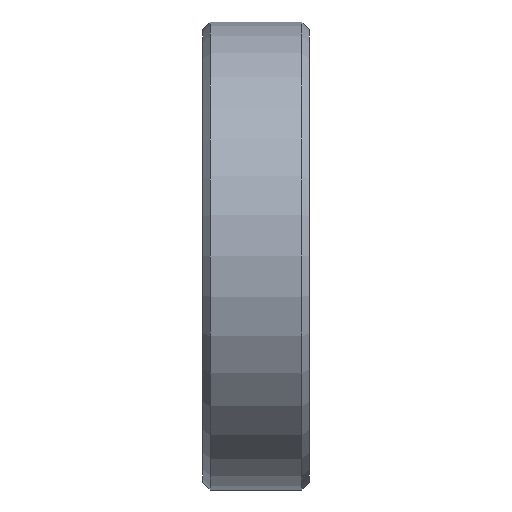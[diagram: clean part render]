
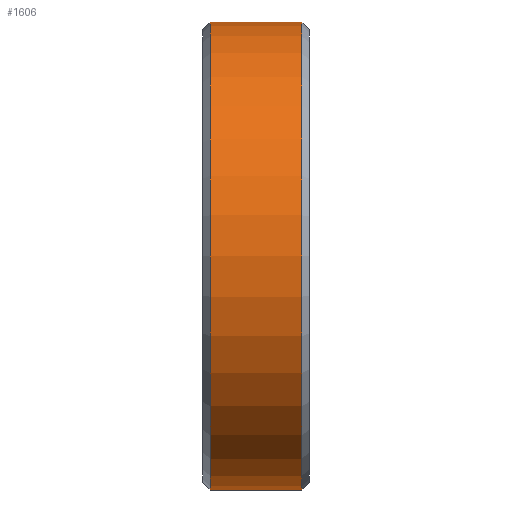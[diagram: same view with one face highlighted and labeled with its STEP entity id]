
A CAD part, left-side view. The second image highlights one B-rep face of the part: STEP entity #1606.
In plain terms, the highlighted cylindrical face has radius 17.5 mm (diameter 35 mm), a partial arc.
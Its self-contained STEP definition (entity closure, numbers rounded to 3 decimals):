
#764 = ORIENTED_EDGE ( 'NONE', *, *, #2423, .F. ) ;
#955 = AXIS2_PLACEMENT_3D ( 'NONE', #7148, #10326, #1434 ) ;
#1434 = DIRECTION ( 'NONE',  ( 0., 0., -1. ) ) ;
#1606 = ADVANCED_FACE ( 'NONE', ( #6865 ), #2040, .T. ) ;
#1796 = DIRECTION ( 'NONE',  ( 0., -1., 0. ) ) ;
#2040 = CYLINDRICAL_SURFACE ( 'NONE', #6993, 17.5 ) ;
#2110 = DIRECTION ( 'NONE',  ( 0., -1., 0. ) ) ;
#2423 = EDGE_CURVE ( 'NONE', #3252, #4437, #3448, .T. ) ;
#2742 = DIRECTION ( 'NONE',  ( 0., 0., 1. ) ) ;
#2779 = CARTESIAN_POINT ( 'NONE',  ( 0., 0., 0. ) ) ;
#2899 = CARTESIAN_POINT ( 'NONE',  ( 0., 3.44, 0. ) ) ;
#3252 = VERTEX_POINT ( 'NONE', #6135 ) ;
#3448 = LINE ( 'NONE', #6650, #8025 ) ;
#4212 = LINE ( 'NONE', #9749, #7470 ) ;
#4437 = VERTEX_POINT ( 'NONE', #7052 ) ;
#4585 = DIRECTION ( 'NONE',  ( 0., -1., 0. ) ) ;
#5357 = DIRECTION ( 'NONE',  ( 0., 0., -1. ) ) ;
#6005 = VERTEX_POINT ( 'NONE', #7641 ) ;
#6131 = CIRCLE ( 'NONE', #955, 17.5 ) ;
#6135 = CARTESIAN_POINT ( 'NONE',  ( 0., 3.44, 17.5 ) ) ;
#6219 = ORIENTED_EDGE ( 'NONE', *, *, #7676, .T. ) ;
#6450 = DIRECTION ( 'NONE',  ( 0., -1., 0. ) ) ;
#6650 = CARTESIAN_POINT ( 'NONE',  ( 0., 0., 17.5 ) ) ;
#6865 = FACE_OUTER_BOUND ( 'NONE', #7953, .T. ) ;
#6993 = AXIS2_PLACEMENT_3D ( 'NONE', #2779, #4585, #5357 ) ;
#7052 = CARTESIAN_POINT ( 'NONE',  ( 0., -3.44, 17.5 ) ) ;
#7148 = CARTESIAN_POINT ( 'NONE',  ( 0., -3.44, 0. ) ) ;
#7470 = VECTOR ( 'NONE', #1796, 1000. ) ;
#7641 = CARTESIAN_POINT ( 'NONE',  ( 0., 3.44, -17.5 ) ) ;
#7676 = EDGE_CURVE ( 'NONE', #8528, #4437, #6131, .T. ) ;
#7791 = EDGE_CURVE ( 'NONE', #6005, #8528, #4212, .T. ) ;
#7953 = EDGE_LOOP ( 'NONE', ( #764, #8799, #8200, #6219 ) ) ;
#8025 = VECTOR ( 'NONE', #6450, 1000. ) ;
#8161 = AXIS2_PLACEMENT_3D ( 'NONE', #2899, #2110, #2742 ) ;
#8200 = ORIENTED_EDGE ( 'NONE', *, *, #7791, .T. ) ;
#8528 = VERTEX_POINT ( 'NONE', #9278 ) ;
#8755 = EDGE_CURVE ( 'NONE', #3252, #6005, #9659, .T. ) ;
#8799 = ORIENTED_EDGE ( 'NONE', *, *, #8755, .T. ) ;
#9278 = CARTESIAN_POINT ( 'NONE',  ( 0., -3.44, -17.5 ) ) ;
#9659 = CIRCLE ( 'NONE', #8161, 17.5 ) ;
#9749 = CARTESIAN_POINT ( 'NONE',  ( 0., 0., -17.5 ) ) ;
#10326 = DIRECTION ( 'NONE',  ( 0., 1., 0. ) ) ;
